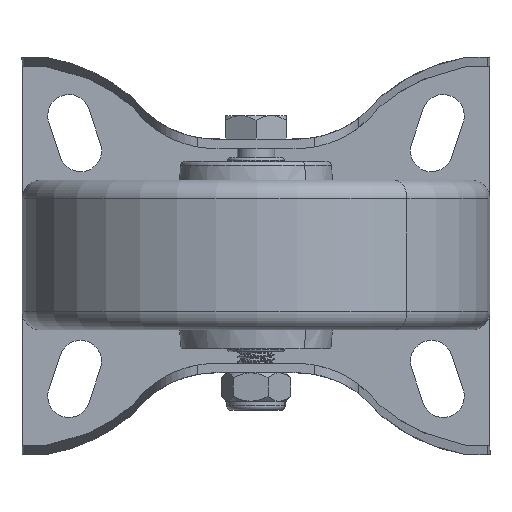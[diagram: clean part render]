
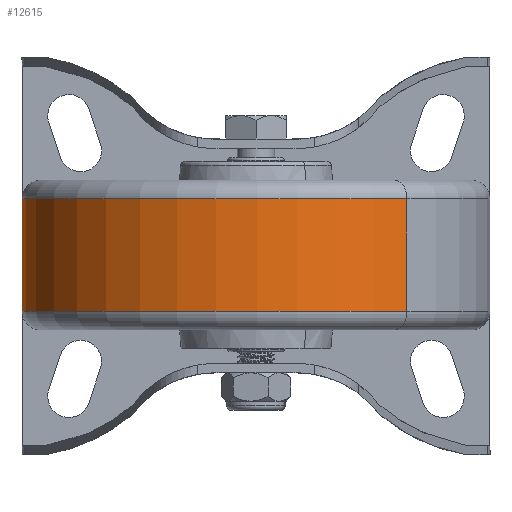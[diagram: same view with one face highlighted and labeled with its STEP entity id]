
A CAD part, front view. The second image highlights one B-rep face of the part: STEP entity #12615.
In plain terms, the highlighted cylindrical face has radius 50 mm (diameter 100 mm), a partial arc.
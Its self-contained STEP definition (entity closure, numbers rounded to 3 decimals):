
#502 = ORIENTED_EDGE ( 'NONE', *, *, #11144, .F. ) ;
#796 = DIRECTION ( 'NONE',  ( 0., -1., 0. ) ) ;
#945 = DIRECTION ( 'NONE',  ( 0., -1., 0. ) ) ;
#1431 = VECTOR ( 'NONE', #16465, 1000. ) ;
#1685 = EDGE_CURVE ( 'NONE', #4747, #17970, #11081, .T. ) ;
#2390 = ORIENTED_EDGE ( 'NONE', *, *, #1685, .F. ) ;
#2491 = ORIENTED_EDGE ( 'NONE', *, *, #10656, .T. ) ;
#2919 = AXIS2_PLACEMENT_3D ( 'NONE', #10957, #796, #6470 ) ;
#3592 = EDGE_CURVE ( 'NONE', #12804, #7830, #10458, .T. ) ;
#3676 = ORIENTED_EDGE ( 'NONE', *, *, #3592, .T. ) ;
#4747 = VERTEX_POINT ( 'NONE', #5802 ) ;
#5497 = CARTESIAN_POINT ( 'NONE',  ( 0., 0., -50. ) ) ;
#5802 = CARTESIAN_POINT ( 'NONE',  ( 0., -12., 50. ) ) ;
#6317 = AXIS2_PLACEMENT_3D ( 'NONE', #15302, #945, #12127 ) ;
#6470 = DIRECTION ( 'NONE',  ( 0., 0., -1. ) ) ;
#6713 = LINE ( 'NONE', #5497, #12422 ) ;
#6810 = CARTESIAN_POINT ( 'NONE',  ( 0., 12., 50. ) ) ;
#7778 = CARTESIAN_POINT ( 'NONE',  ( 0., 0., 50. ) ) ;
#7830 = VERTEX_POINT ( 'NONE', #10234 ) ;
#7871 = CYLINDRICAL_SURFACE ( 'NONE', #2919, 50. ) ;
#7977 = DIRECTION ( 'NONE',  ( 0., -1., 0. ) ) ;
#8386 = AXIS2_PLACEMENT_3D ( 'NONE', #17891, #7977, #13957 ) ;
#9269 = FACE_OUTER_BOUND ( 'NONE', #14495, .T. ) ;
#9524 = DIRECTION ( 'NONE',  ( 0., -1., 0. ) ) ;
#10234 = CARTESIAN_POINT ( 'NONE',  ( 0., 12., -50. ) ) ;
#10458 = CIRCLE ( 'NONE', #8386, 50. ) ;
#10656 = EDGE_CURVE ( 'NONE', #7830, #17970, #6713, .T. ) ;
#10957 = CARTESIAN_POINT ( 'NONE',  ( 0., 0., 0. ) ) ;
#11081 = CIRCLE ( 'NONE', #6317, 50. ) ;
#11144 = EDGE_CURVE ( 'NONE', #12804, #4747, #12075, .T. ) ;
#12075 = LINE ( 'NONE', #7778, #1431 ) ;
#12127 = DIRECTION ( 'NONE',  ( 0., 0., -1. ) ) ;
#12422 = VECTOR ( 'NONE', #9524, 1000. ) ;
#12615 = ADVANCED_FACE ( 'NONE', ( #9269 ), #7871, .T. ) ;
#12804 = VERTEX_POINT ( 'NONE', #6810 ) ;
#13957 = DIRECTION ( 'NONE',  ( 0., 0., -1. ) ) ;
#14495 = EDGE_LOOP ( 'NONE', ( #502, #3676, #2491, #2390 ) ) ;
#15302 = CARTESIAN_POINT ( 'NONE',  ( 0., -12., 0. ) ) ;
#15613 = CARTESIAN_POINT ( 'NONE',  ( 0., -12., -50. ) ) ;
#16465 = DIRECTION ( 'NONE',  ( 0., -1., 0. ) ) ;
#17891 = CARTESIAN_POINT ( 'NONE',  ( 0., 12., 0. ) ) ;
#17970 = VERTEX_POINT ( 'NONE', #15613 ) ;
